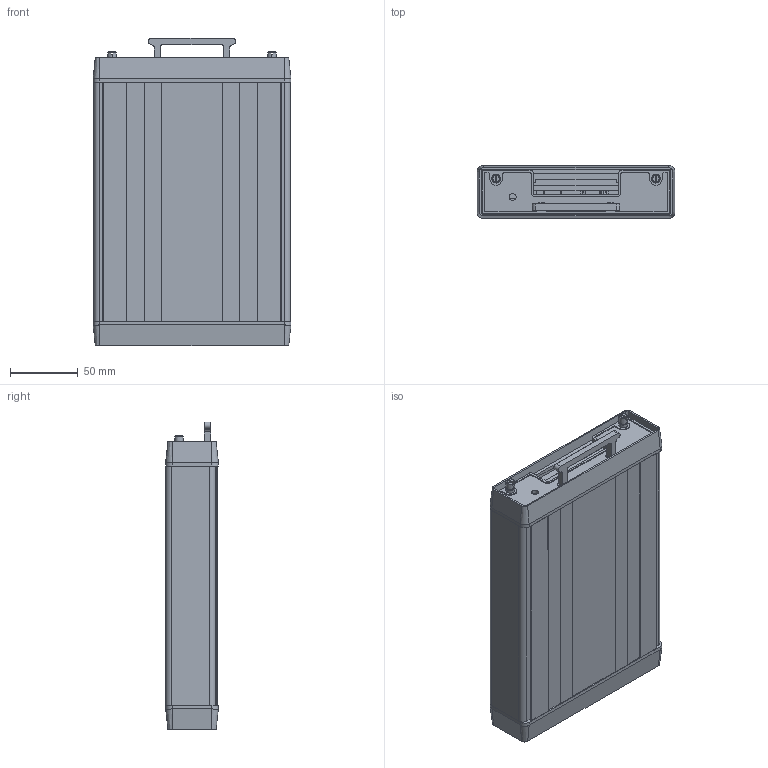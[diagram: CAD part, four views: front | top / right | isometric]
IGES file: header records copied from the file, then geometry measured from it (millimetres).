
Start section:  PTC IGES file: cu_usb_daqpad_screw_small.igs
Global section: file name: cu_usb_daqpad_screw_small.igs; native system: Pro/ENGINEER by Parametric Technology Corporation; preprocessor: 2006080; author: jpearson; organization: Unknown; date: 070828.143540; units: inch
Bounding box: 146 x 38.86 x 227.13 mm (x, y, z)
Surface area: 211946.9 mm2 (no closed solid volume)
Topology: 0 solids, 0 shells, 1068 faces, 5660 edges, 5556 vertices
Faces by surface type: bspline 756, revolution 312
